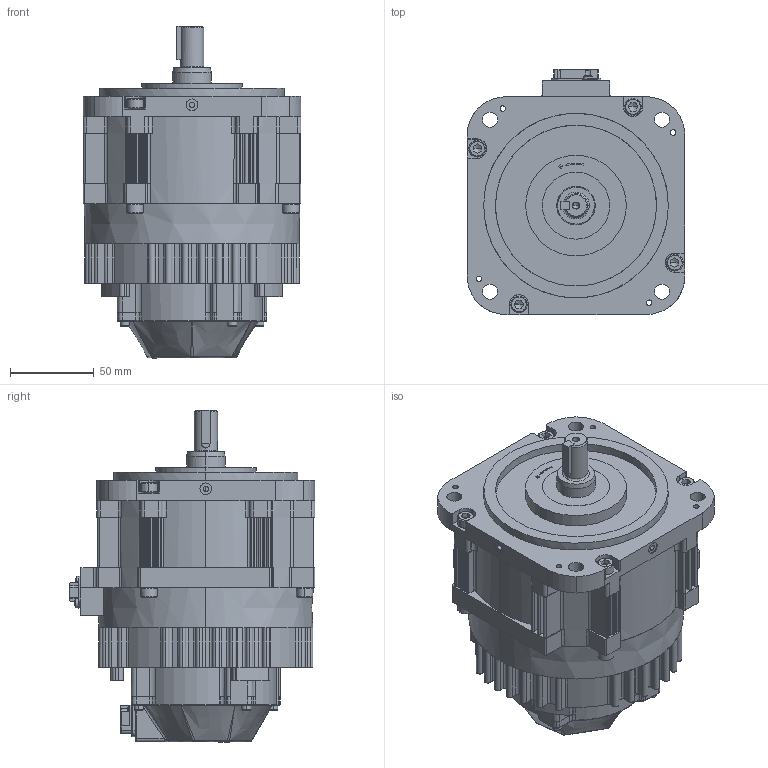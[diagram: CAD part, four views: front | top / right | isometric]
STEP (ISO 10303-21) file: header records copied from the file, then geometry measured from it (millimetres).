
FILE_DESCRIPTION (( 'STEP AP214' ), '1' );
FILE_NAME ('SGM7G-05APK-YR1.STEP', '2021-04-12T14:41:36', ( '' ), ( '' ), 'SwSTEP 2.0', 'SolidWorks 2019', '' );
FILE_SCHEMA (( 'AUTOMOTIVE_DESIGN' ));
Length unit declared in the file: millimetre
Products named in the file (1): SGM7G-05APK-YR1
Bounding box: 130 x 146.5 x 198 mm (x, y, z)
Volume: 1770197.7 mm3; surface area: 122971.4 mm2
Topology: 2 solids, 4 shells, 1679 faces, 4486 edges, 2849 vertices
Faces by surface type: plane 869, cylinder 570, cone 129, bspline 111
Entity records: 63740 total; most frequent: CARTESIAN_POINT 24128, ORIENTED_EDGE 8884, DIRECTION 6711, EDGE_CURVE 4442, VERTEX_POINT 2849, LINE 2471, VECTOR 2471, AXIS2_PLACEMENT_3D 2120
